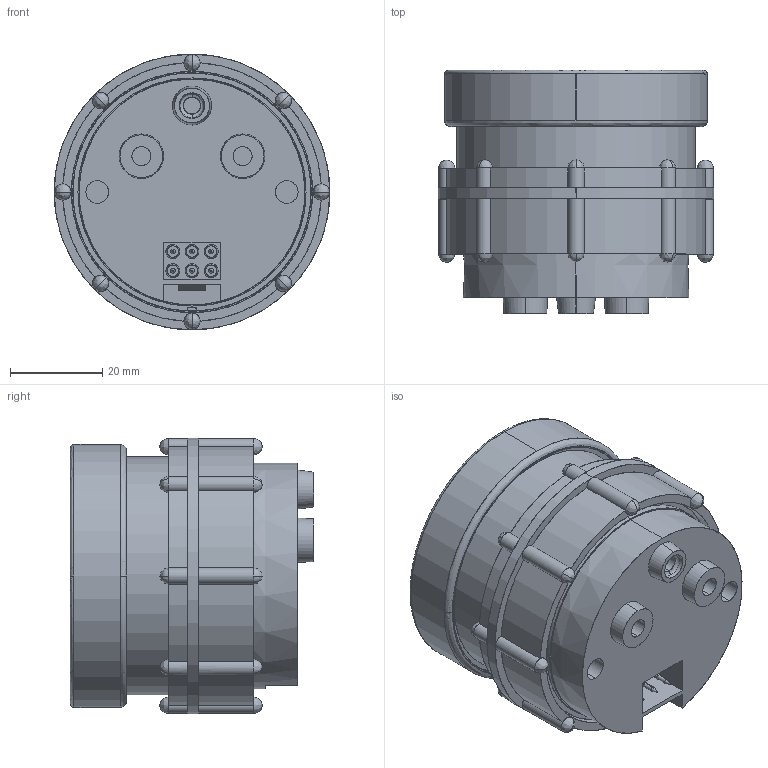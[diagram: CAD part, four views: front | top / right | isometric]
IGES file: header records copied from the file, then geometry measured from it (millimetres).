
Start section: SolidWorks IGES file using analytic representation for surfaces
Global section: file name: C:\Documents and Settings\lbonner.000\My Documents\EG\eg21_asm.IGS; native system: SolidWorks 2005 by SolidWorks Corporation; preprocessor: SolidWorks 2005 by SolidWorks Corporation; author: LBONNER; date: 050912.083124; units: inch
Bounding box: 59.89 x 52.91 x 59.89 mm (x, y, z)
Surface area: 43648.2 mm2 (no closed solid volume)
Topology: 0 solids, 0 shells, 420 faces, 7030 edges, 6985 vertices
Faces by surface type: revolution 233, bspline 187
